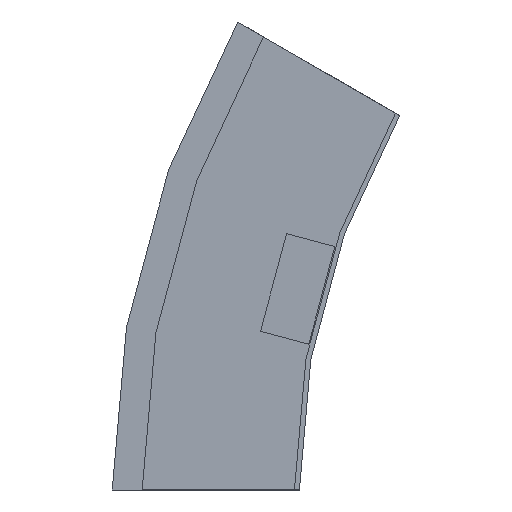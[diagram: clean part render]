
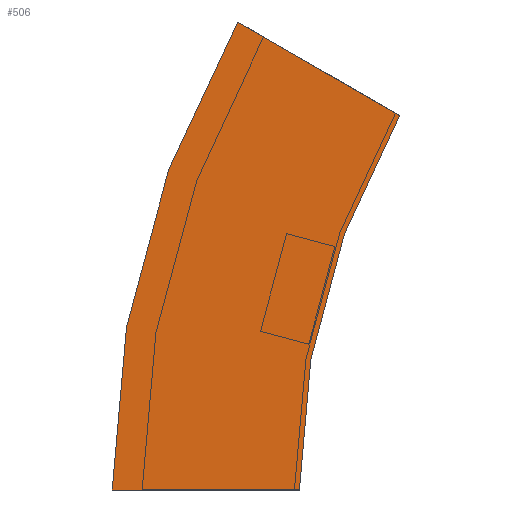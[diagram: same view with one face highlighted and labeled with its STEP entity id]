
A CAD part, left-side view. The second image highlights one B-rep face of the part: STEP entity #506.
In plain terms, the highlighted planar face has unit normal (-1, 0, 0) as drawn and (1, 0, 0) by its records, which use the part's own axes.
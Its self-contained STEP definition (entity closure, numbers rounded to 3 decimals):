
#20 = CARTESIAN_POINT ( 'NONE',  ( 0., 0., 0. ) ) ;
#30 = DIRECTION ( 'NONE',  ( 1., 0., 0. ) ) ;
#31 = AXIS2_PLACEMENT_3D ( 'NONE', #221, #396, #386 ) ;
#36 = CARTESIAN_POINT ( 'NONE',  ( 0., 0., 0. ) ) ;
#51 = VECTOR ( 'NONE', #561, 1000. ) ;
#61 = CIRCLE ( 'NONE', #435, 375. ) ;
#91 = FACE_OUTER_BOUND ( 'NONE', #467, .T. ) ;
#109 = ORIENTED_EDGE ( 'NONE', *, *, #419, .T. ) ;
#122 = VERTEX_POINT ( 'NONE', #403 ) ;
#133 = CARTESIAN_POINT ( 'NONE',  ( 0., -40.192, 150. ) ) ;
#152 = EDGE_CURVE ( 'NONE', #250, #503, #166, .T. ) ;
#166 = LINE ( 'NONE', #335, #51 ) ;
#192 = DIRECTION ( 'NONE',  ( 1., 0., 0. ) ) ;
#194 = DIRECTION ( 'NONE',  ( 0., 0., -1. ) ) ;
#207 = ORIENTED_EDGE ( 'NONE', *, *, #445, .T. ) ;
#221 = CARTESIAN_POINT ( 'NONE',  ( 0., -300., 0. ) ) ;
#250 = VERTEX_POINT ( 'NONE', #133 ) ;
#251 = DIRECTION ( 'NONE',  ( 0., 1., 0. ) ) ;
#272 = CIRCLE ( 'NONE', #31, 300. ) ;
#286 = VERTEX_POINT ( 'NONE', #354 ) ;
#295 = VECTOR ( 'NONE', #298, 1000. ) ;
#298 = DIRECTION ( 'NONE',  ( 0., 1., 0. ) ) ;
#299 = EDGE_CURVE ( 'NONE', #286, #250, #272, .T. ) ;
#335 = CARTESIAN_POINT ( 'NONE',  ( 0., -40.192, 150. ) ) ;
#346 = CARTESIAN_POINT ( 'NONE',  ( 0., -300., 0. ) ) ;
#354 = CARTESIAN_POINT ( 'NONE',  ( 0., 0., 0. ) ) ;
#385 = LINE ( 'NONE', #36, #295 ) ;
#386 = DIRECTION ( 'NONE',  ( 0., 1., 0. ) ) ;
#396 = DIRECTION ( 'NONE',  ( 1., 0., 0. ) ) ;
#403 = CARTESIAN_POINT ( 'NONE',  ( 0., 75., 0. ) ) ;
#406 = PLANE ( 'NONE',  #536 ) ;
#419 = EDGE_CURVE ( 'NONE', #122, #503, #61, .T. ) ;
#435 = AXIS2_PLACEMENT_3D ( 'NONE', #346, #30, #251 ) ;
#445 = EDGE_CURVE ( 'NONE', #286, #122, #385, .T. ) ;
#456 = CARTESIAN_POINT ( 'NONE',  ( 0., 24.76, 187.5 ) ) ;
#460 = ORIENTED_EDGE ( 'NONE', *, *, #299, .F. ) ;
#467 = EDGE_LOOP ( 'NONE', ( #109, #548, #460, #207 ) ) ;
#503 = VERTEX_POINT ( 'NONE', #456 ) ;
#506 = ADVANCED_FACE ( 'NONE', ( #91 ), #406, .T. ) ;
#536 = AXIS2_PLACEMENT_3D ( 'NONE', #20, #192, #194 ) ;
#548 = ORIENTED_EDGE ( 'NONE', *, *, #152, .F. ) ;
#561 = DIRECTION ( 'NONE',  ( 0., 0.866, 0.5 ) ) ;
